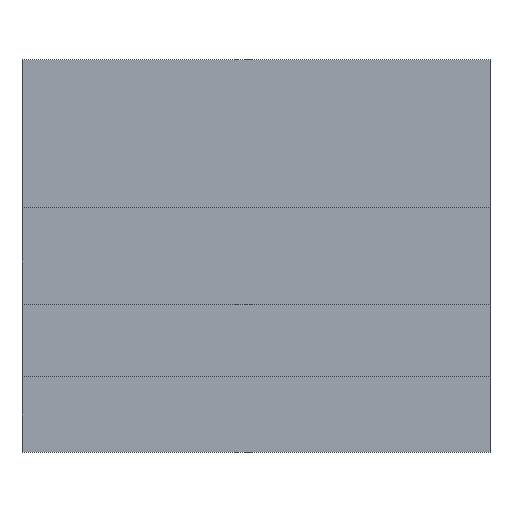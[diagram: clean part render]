
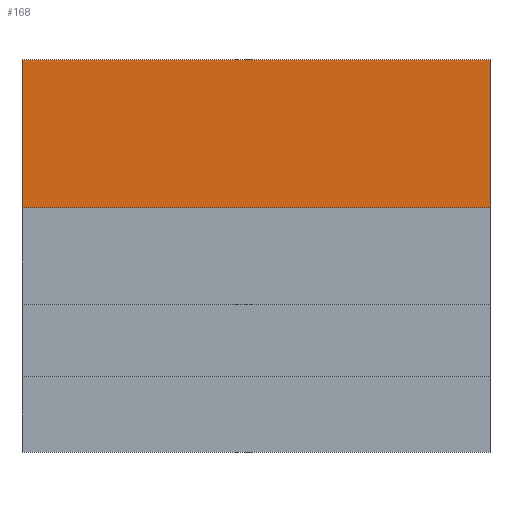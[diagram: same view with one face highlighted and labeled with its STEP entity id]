
A CAD part, top view. The second image highlights one B-rep face of the part: STEP entity #168.
In plain terms, the highlighted planar face has unit normal (0, 0, 1).
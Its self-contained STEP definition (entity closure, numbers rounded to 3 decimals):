
#106=AXIS2_PLACEMENT_3D('Plane Axis2P3D',#103,#104,#105) ;
#43=CARTESIAN_POINT('Vertex',(51.,0.,3.)) ;
#57=CARTESIAN_POINT('Vertex',(0.,0.,3.)) ;
#60=CARTESIAN_POINT('Line Origine',(25.5,0.,3.)) ;
#103=CARTESIAN_POINT('Axis2P3D Location',(0.,0.,3.)) ;
#143=CARTESIAN_POINT('Line Origine',(51.,-8.075,3.)) ;
#147=CARTESIAN_POINT('Vertex',(51.,-16.15,3.)) ;
#150=CARTESIAN_POINT('Line Origine',(0.,-8.075,3.)) ;
#154=CARTESIAN_POINT('Vertex',(0.,-16.15,3.)) ;
#157=CARTESIAN_POINT('Line Origine',(25.5,-16.15,3.)) ;
#61=DIRECTION('Vector Direction',(1.,0.,0.)) ;
#104=DIRECTION('Axis2P3D Direction',(0.,0.,1.)) ;
#105=DIRECTION('Axis2P3D XDirection',(1.,0.,0.)) ;
#144=DIRECTION('Vector Direction',(0.,1.,0.)) ;
#151=DIRECTION('Vector Direction',(0.,-1.,0.)) ;
#158=DIRECTION('Vector Direction',(1.,0.,0.)) ;
#62=VECTOR('Line Direction',#61,1.) ;
#145=VECTOR('Line Direction',#144,1.) ;
#152=VECTOR('Line Direction',#151,1.) ;
#159=VECTOR('Line Direction',#158,1.) ;
#163=ORIENTED_EDGE('',*,*,#149,.T.) ;
#164=ORIENTED_EDGE('',*,*,#64,.T.) ;
#165=ORIENTED_EDGE('',*,*,#156,.T.) ;
#166=ORIENTED_EDGE('',*,*,#161,.F.) ;
#168=ADVANCED_FACE('\X2\96F64EF651E04F554F53\X0\',(#167),#107,.T.) ;
#64=EDGE_CURVE('',#44,#58,#63,.F.) ;
#149=EDGE_CURVE('',#148,#44,#146,.T.) ;
#156=EDGE_CURVE('',#58,#155,#153,.T.) ;
#161=EDGE_CURVE('',#148,#155,#160,.F.) ;
#162=EDGE_LOOP('',(#163,#164,#165,#166)) ;
#167=FACE_OUTER_BOUND('',#162,.T.) ;
#63=LINE('Line',#60,#62) ;
#146=LINE('Line',#143,#145) ;
#153=LINE('Line',#150,#152) ;
#160=LINE('Line',#157,#159) ;
#107=PLANE('',#106) ;
#44=VERTEX_POINT('',#43) ;
#58=VERTEX_POINT('',#57) ;
#148=VERTEX_POINT('',#147) ;
#155=VERTEX_POINT('',#154) ;
